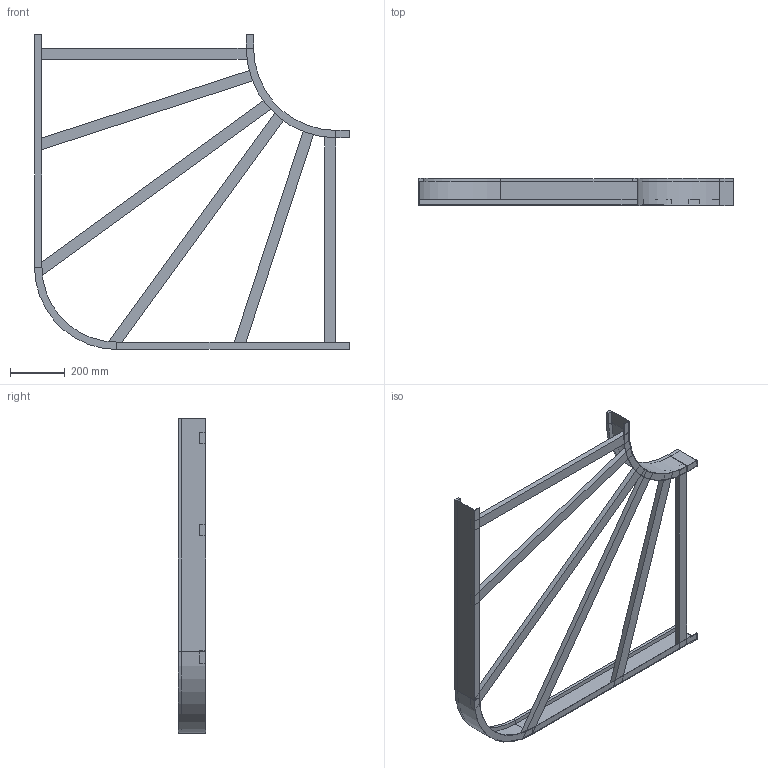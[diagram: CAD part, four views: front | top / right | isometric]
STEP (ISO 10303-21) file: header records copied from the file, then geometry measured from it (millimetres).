
FILE_DESCRIPTION (( 'STEP AP214' ), '1' );
FILE_NAME ('B2_10B3D800.step', '2025-02-21T15:23:45', ( '' ), ( '' ), 'SwSTEP 2.0', 'SolidWorks 2023', '' );
FILE_SCHEMA (( 'AUTOMOTIVE_DESIGN' ));
Length unit declared in the file: millimetre
Products named in the file (6): B2_LONGH.INTERNO 90°_H100_R300; TRAVERSINO_800; TRAVERSINO_900_SCANTONATO; TRAVERSINO_1130_SCANTONATO; B2_10B3D800; B2_LONGH.ESTERNO 90°_H100_R300+800
Assembly tree (8 placements, depth 2):
  B2_10B3D800
    B2_LONGH.INTERNO 90°_H100_R300
    B2_LONGH.ESTERNO 90°_H100_R300+800
    TRAVERSINO_800  x2
    TRAVERSINO_900_SCANTONATO  x2
    TRAVERSINO_1130_SCANTONATO  x2
Bounding box: 1150 x 100 x 1150 mm (x, y, z)
Volume: 5613438.3 mm3; surface area: 1453667.4 mm2
Topology: 8 solids, 8 shells, 88 faces, 184 edges, 112 vertices
Faces by surface type: plane 80, cylinder 8
Entity records: 2023 total; most frequent: DIRECTION 326, CARTESIAN_POINT 317, ORIENTED_EDGE 296, EDGE_CURVE 148, LINE 132, VECTOR 132, AXIS2_PLACEMENT_3D 97, VERTEX_POINT 88
